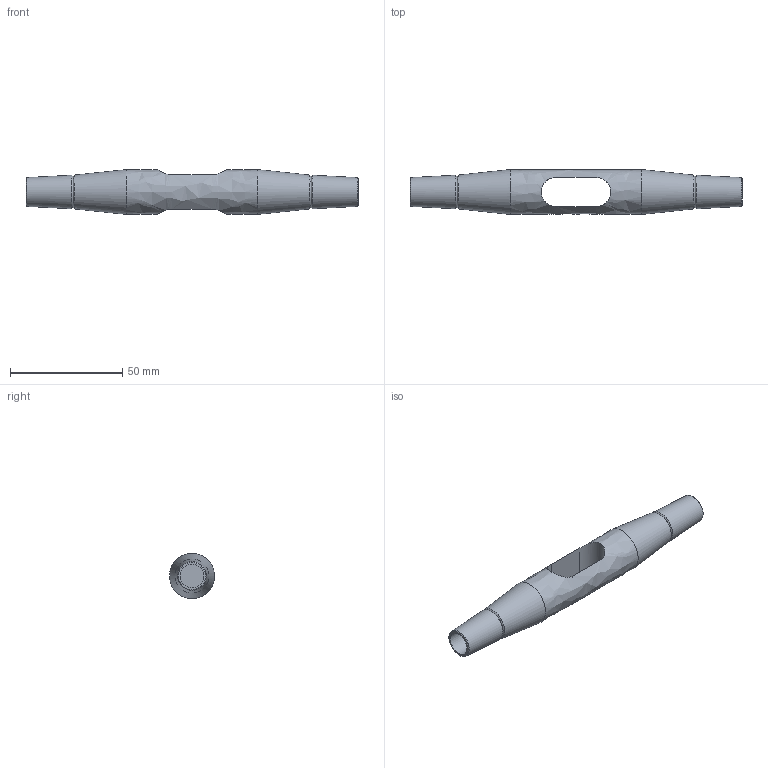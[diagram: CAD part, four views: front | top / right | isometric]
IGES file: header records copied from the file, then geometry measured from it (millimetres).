
Global section: file name: 520-010-KMF; native system: Autodesk Inventor 2016; preprocessor: unknown; author: Administrator; date: 20200702.131700; units: centimetre
Bounding box: 148 x 20 x 20 mm (x, y, z)
Volume: 26645.3 mm3; surface area: 9953.9 mm2
Topology: 1 solids, 1 shells, 21 faces, 55 edges, 38 vertices
Faces by surface type: bspline 21
